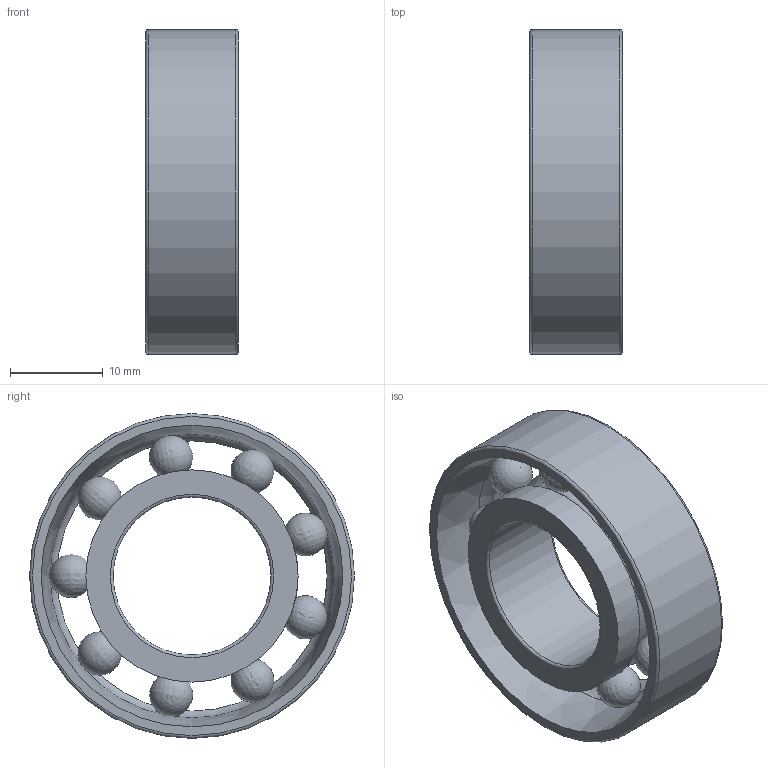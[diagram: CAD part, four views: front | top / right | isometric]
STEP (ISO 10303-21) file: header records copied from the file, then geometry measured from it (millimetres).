
FILE_DESCRIPTION(/* description */ ('앵귤러 콘택트 볼 베어링'),/* implementation_level */ '2;1');
FILE_NAME(/* name */ '',/* time_stamp */ '2024-11-28T15:21:14+09:00',/* author */ ('jhkim'),/* organization */ (''),/* preprocessor_version */ 'ST-DEVELOPER v20',/* originating_system */ 'Autodesk Inventor 2025',/* authorisation */ '');
FILE_SCHEMA (('AUTOMOTIVE_DESIGN { 1 0 10303 214 3 1 1 }'));
Length unit declared in the file: millimetre
Products named in the file (1): 앵귤러 볼 베어링 
7003A
Bounding box: 10 x 35 x 35 mm (x, y, z)
Volume: 4454 mm3; surface area: 4732.4 mm2
Topology: 11 solids, 11 shells, 41 faces, 111 edges, 74 vertices
Faces by surface type: torus 22, sphere 9, cylinder 5, plane 4, cone 1
Full cylindrical faces by diameter (mm): 17 x1, 22.868 x2, 29.132 x1, 35 x1
Entity records: 1555 total; most frequent: DIRECTION 300, CARTESIAN_POINT 263, ORIENTED_EDGE 222, AXIS2_PLACEMENT_3D 147, EDGE_CURVE 111, VERTEX_POINT 110, CIRCLE 105, EDGE_LOOP 63
